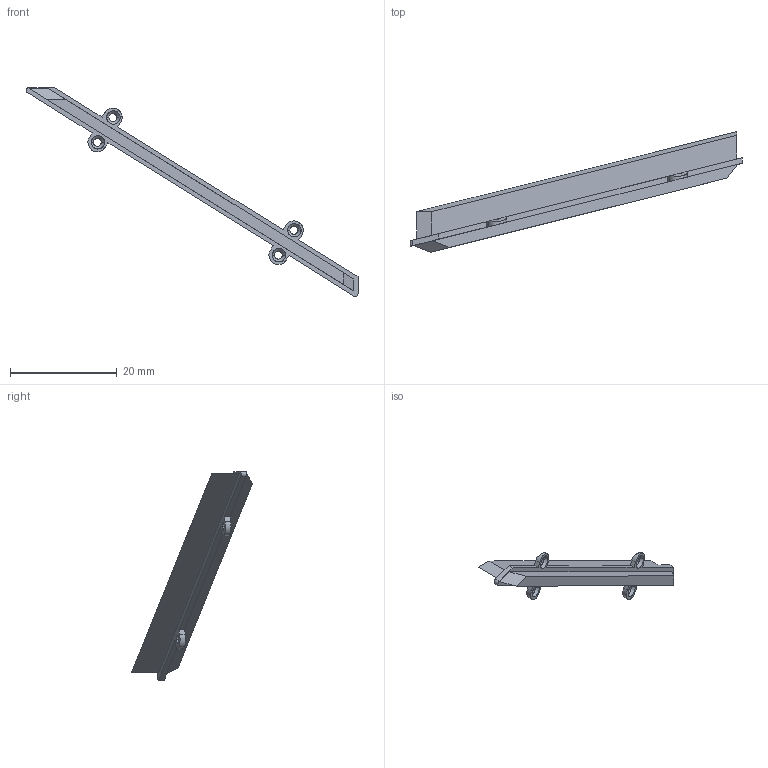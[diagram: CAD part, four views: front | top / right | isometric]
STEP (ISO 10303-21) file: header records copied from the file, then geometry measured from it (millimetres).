
FILE_DESCRIPTION((''),'2;1');
FILE_NAME('TOP_LED2','2024-12-18T',('18137'),(''),'CREO PARAMETRIC BY PTC INC, 2016050','CREO PARAMETRIC BY PTC INC, 2016050','');
FILE_SCHEMA(('CONFIG_CONTROL_DESIGN'));
Length unit declared in the file: millimetre
Products named in the file (1): TOP_LED2
Bounding box: 62.26 x 22.68 x 39.18 mm (x, y, z)
Volume: 1035.8 mm3; surface area: 1717.9 mm2
Topology: 1 solids, 1 shells, 53 faces, 145 edges, 94 vertices
Faces by surface type: plane 31, cylinder 14, bspline 8
Entity records: 2455 total; most frequent: CARTESIAN_POINT 1170, ORIENTED_EDGE 290, DIRECTION 191, EDGE_CURVE 145, VECTOR 101, LINE 101, VERTEX_POINT 94, EDGE_LOOP 61
